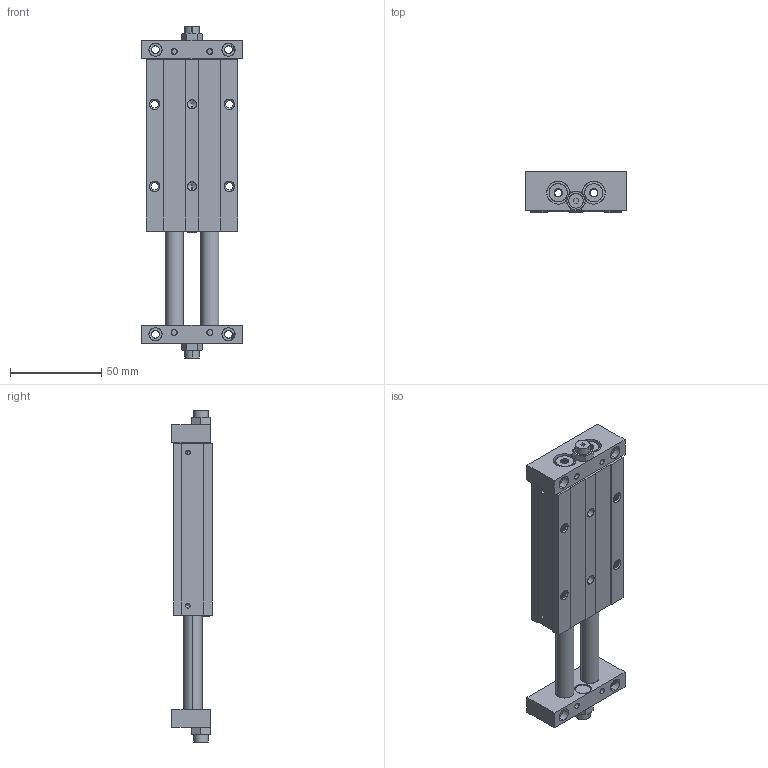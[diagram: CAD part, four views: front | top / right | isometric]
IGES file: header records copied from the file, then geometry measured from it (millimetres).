
Start section: SolidWorks IGES file using analytic representation for surfaces
Global section: file name: c:\CATALO3D\IGS\PS16.0050.IGS; native system: SolidWorks 2005 by SolidWorks Corporation; preprocessor: SolidWorks 2005 by SolidWorks Corporation; author: tania; date: 051006.085557; units: millimetre
Bounding box: 55 x 22 x 182 mm (x, y, z)
Surface area: 54165.4 mm2 (no closed solid volume)
Topology: 0 solids, 0 shells, 1142 faces, 10132 edges, 10120 vertices
Faces by surface type: revolution 920, bspline 222
